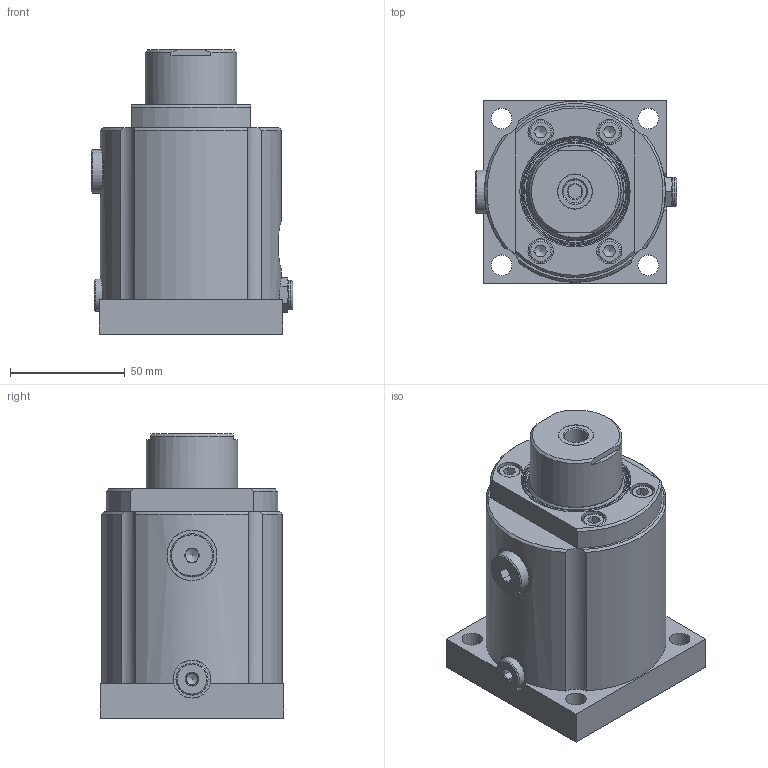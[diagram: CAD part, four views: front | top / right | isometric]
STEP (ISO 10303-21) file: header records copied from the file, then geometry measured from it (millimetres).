
FILE_DESCRIPTION(/* description */ ('Gehäuse Ø40'),/* implementation_level */ '2;1');
FILE_NAME(/* name */ 'N:\CAD\ARCHIV\5310\5310.40.00\5310(11,12).40.00.stp',/* time_stamp */ '2017-11-21T15:53:14+01:00',/* author */ ('sschwock'),/* organization */ (''),/* preprocessor_version */ 'ST-DEVELOPER v15.2',/* originating_system */ 'Autodesk Inventor 2014',/* authorisation */ '');
FILE_SCHEMA (('AUTOMOTIVE_DESIGN { 1 0 10303 214 3 1 1 }'));
Length unit declared in the file: millimetre
Products named in the file (21): 5310.40.10; Verschlußschraube_G1-4; Verschlußschraube_G1-8; Schalldämpfer SW 13; Bronzehülse; POM; 5315.40.11 fertig; 5315.40.01 Klemmkörper; INA-Dichtring 40; Stützbolzen; Gewindedeckel; 5310.30.03; Gewindeeinsatz M16x1,5; 5316.20.04; Gewindestift DIN 913 M12x10; D_200; O-Ring 132; Stützring; 5316.40.00; DIN 912 - M6 x 1 x 12 x 9,5; 5310.40.00
Bounding box: 87.9 x 80 x 124 mm (x, y, z)
Volume: 465919 mm3; surface area: 150587.9 mm2
Topology: 24 solids, 24 shells, 399 faces, 887 edges, 563 vertices
Faces by surface type: plane 181, cylinder 121, cone 74, torus 18, bspline 5
Full cylindrical faces by diameter (mm): 3 x1, 4 x4, 4.1 x2, 4.917 x5, 6 x8, 7 x5, 8.37 x1, 8.566 x2, 8.73 x1, 8.9 x1, 9 x4, 9.37 x1, 9.5 x2, 9.73 x1, 10 x5, 10.106 x1, 10.5 x1, 11 x4, 11.445 x2, 12 x1, 12.8 x1, 12.9 x1, 14 x1, 14.376 x2, 16 x1, 16.5 x2, 17 x1, 18.9 x1, 33 x1, 35 x1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
Entity records: 20780 total; most frequent: CARTESIAN_POINT 13329, DIRECTION 1543, ORIENTED_EDGE 1162, AXIS2_PLACEMENT_3D 689, EDGE_LOOP 591, EDGE_CURVE 581, VERTEX_POINT 452, ADVANCED_FACE 348
